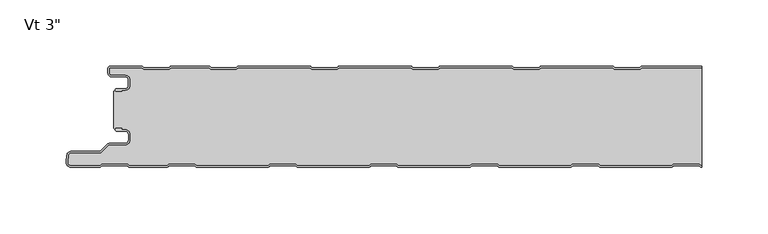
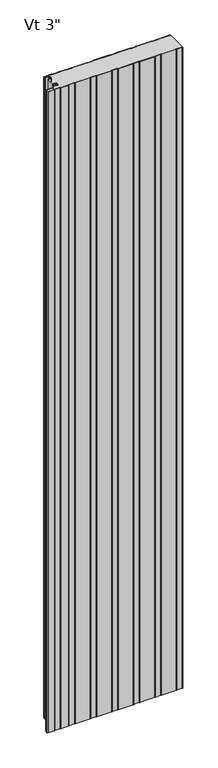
"""IFC4 building model written with IfcOpenShell, lengths in millimetres: plate geometry."""

from ifc_helpers import new_model, si_unit, point, frame, frame_2d, origin, origin_with_axes, place, context, project, spatial, polyline, circle_curve, trimmed, segment, composite_curve, outline, extrude, source, transform, mapped, element, save
from ifc_brep_helpers import plane_surface, cylinder_surface, revolved_surface, advanced_brep


def plate_00e9bba4(model_context):
    return source(origin(), model_context, "Body", "SolidModel", [
        advanced_brep(
        [(-219.9686911, -17.0015243, 2400.0), (-220.9686883, -18.0015275, 2400.0), (-219.9686911, -19.0015188, 2400.0), (-215.9684874, -19.0015188, 2400.0), (-215.9684874, -18.0015243, 2400.0), (-213.2762776, -18.0015243, 2400.0), (-209.9762819, -14.7015286, 2400.0), (-209.9762819, -10.3015374, 2400.0), (-213.2762774, -7.0015419, 2400.0), (-223.6962563, -7.0015419, 2400.0), (-225.4662505, -5.2315477, 2400.0), (-225.4662505, -1.0, 2400.0), (-200.9659739, -1.0, 2400.0), (-199.5803313, -2.2002391, 2400.0), (-180.205165, -2.2002391, 2400.0), (-178.819532, -1.0000084, 2400.0), (-150.1661166, -1.0000084, 2400.0), (-148.7804837, -2.2002391, 2400.0), (-129.4053174, -2.2002391, 2400.0), (-128.0196844, -1.0000084, 2400.0), (-73.966269, -1.0000084, 2400.0), (-72.5806361, -2.2002391, 2400.0), (-53.2054698, -2.2002391, 2400.0), (-51.8198368, -1.0000084, 2400.0), (2.2335786, -1.0000084, 2400.0), (3.6192115, -2.2002391, 2400.0), (22.9943778, -2.2002391, 2400.0), (24.3800108, -1.0000084, 2400.0), (78.4334262, -1.0000084, 2400.0), (79.8190591, -2.2002391, 2400.0), (99.1942254, -2.2002391, 2400.0), (100.5798584, -1.0000084, 2400.0), (154.6332738, -1.0000084, 2400.0), (156.0189067, -2.2002391, 2400.0), (175.394073, -2.2002391, 2400.0), (176.779706, -1.0000084, 2400.0), (221.9999998, -1.0000084, 2400.0), (221.9999998, -8.4e-06, 2400.0), (176.9288571, -8.4e-06, 2400.0), (176.0122402, -0.3417969, 2400.0), (175.0211926, -1.2002391, 2400.0), (156.3917872, -1.2002391, 2400.0), (155.4007395, -0.3417969, 2400.0), (154.4841226, -8.4e-06, 2400.0), (100.7290095, -8.4e-06, 2400.0), (99.8123926, -0.3417969, 2400.0), (98.821345, -1.2002391, 2400.0), (80.1919396, -1.2002391, 2400.0), (79.2008919, -0.3417969, 2400.0), (78.284275, -8.4e-06, 2400.0), (24.5291619, -8.4e-06, 2400.0), (23.612545, -0.3417969, 2400.0), (22.6214974, -1.2002391, 2400.0), (3.992092, -1.2002391, 2400.0), (3.0010443, -0.3417969, 2400.0), (2.0844274, -8.4e-06, 2400.0), (-51.6706857, -8.4e-06, 2400.0), (-52.5873026, -0.3417969, 2400.0), (-53.5783502, -1.2002391, 2400.0), (-72.2077556, -1.2002391, 2400.0), (-73.1988033, -0.3417969, 2400.0), (-74.1154202, -8.4e-06, 2400.0), (-127.8705333, -8.4e-06, 2400.0), (-128.7871502, -0.3417969, 2400.0), (-129.7781978, -1.2002391, 2400.0), (-148.4076032, -1.2002391, 2400.0), (-149.3986509, -0.3417969, 2400.0), (-150.3152678, -8.4e-06, 2400.0), (-178.6703809, -8.4e-06, 2400.0), (-179.5869978, -0.3417969, 2400.0), (-180.5780454, -1.2002391, 2400.0), (-199.2074508, -1.2002391, 2400.0), (-200.1984985, -0.3417969, 2400.0), (-201.1152068, -8.4e-06, 2400.0), (-225.0662544, 0.0, 2400.0), (-226.4662505, -1.3999962, 2400.0), (-226.4662505, -5.2315477, 2400.0), (-223.6962563, -8.0015419, 2400.0), (-213.2762774, -8.0015419, 2400.0), (-210.9762819, -10.3015374, 2400.0), (-210.9762819, -14.7015286, 2400.0), (-213.2762776, -17.0015243, 2400.0), (-219.9686911, -17.0015243, 0.0), (-213.2762776, -17.0015243, 0.0), (-210.9762819, -14.7015286, 0.0), (-210.9762819, -10.3015374, 0.0), (-213.2762774, -8.0015419, 0.0), (-223.6962563, -8.0015419, 0.0), (-226.4662505, -5.2315477, 0.0), (-226.4662505, -1.3999962, 0.0), (-225.0662544, 0.0, 0.0), (-201.1151154, 0.0, 0.0), (-200.1984985, -0.3417969, 0.0), (-199.2074508, -1.2002391, 0.0), (-180.5780454, -1.2002391, 0.0), (-179.5869978, -0.3417969, 0.0), (-178.6703809, -8.4e-06, 0.0), (-150.3152678, -8.4e-06, 0.0), (-149.3986509, -0.3417969, 0.0), (-148.4076032, -1.2002391, 0.0), (-129.7781978, -1.2002391, 0.0), (-128.7871502, -0.3417969, 0.0), (-127.8705333, -8.4e-06, 0.0), (-74.1154202, -8.4e-06, 0.0), (-73.1988033, -0.3417969, 0.0), (-72.2077556, -1.2002391, 0.0), (-53.5783502, -1.2002391, 0.0), (-52.5873026, -0.3417969, 0.0), (-51.6706857, -8.4e-06, 0.0), (2.0844274, -8.4e-06, 0.0), (3.0010443, -0.3417969, 0.0), (3.992092, -1.2002391, 0.0), (22.6214974, -1.2002391, 0.0), (23.612545, -0.3417969, 0.0), (24.5291619, -8.4e-06, 0.0), (78.284275, -8.4e-06, 0.0), (79.2008919, -0.3417969, 0.0), (80.1919396, -1.2002391, 0.0), (98.821345, -1.2002391, 0.0), (99.8123926, -0.3417969, 0.0), (100.7290095, -8.4e-06, 0.0), (154.4841226, -8.4e-06, 0.0), (155.4007395, -0.3417969, 0.0), (156.3917872, -1.2002391, 0.0), (175.0211926, -1.2002391, 0.0), (176.0122402, -0.3417969, 0.0), (176.9288571, -8.4e-06, 0.0), (221.9999998, -8.4e-06, 0.0), (221.9999998, -1.0000084, 0.0), (176.779706, -1.0000084, 0.0), (175.394073, -2.2002391, 0.0), (156.0189067, -2.2002391, 0.0), (154.6332738, -1.0000084, 0.0), (100.5798584, -1.0000084, 0.0), (99.1942254, -2.2002391, 0.0), (79.8190591, -2.2002391, 0.0), (78.4334262, -1.0000084, 0.0), (24.3800108, -1.0000084, 0.0), (22.9943778, -2.2002391, 0.0), (3.6192115, -2.2002391, 0.0), (2.2335786, -1.0000084, 0.0), (-51.8198368, -1.0000084, 0.0), (-53.2054698, -2.2002391, 0.0), (-72.5806361, -2.2002391, 0.0), (-73.966269, -1.0000084, 0.0), (-128.0196844, -1.0000084, 0.0), (-129.4053174, -2.2002391, 0.0), (-148.7804837, -2.2002391, 0.0), (-150.1661166, -1.0000084, 0.0), (-178.819532, -1.0000084, 0.0), (-180.205165, -2.2002391, 0.0), (-199.5803313, -2.2002391, 0.0), (-200.9659739, -1.0, 0.0), (-225.4662505, -1.0, 0.0), (-225.4662505, -5.2315477, 0.0), (-223.6962563, -7.0015419, 0.0), (-213.2762774, -7.0015419, 0.0), (-209.9762819, -10.3015374, 0.0), (-209.9762819, -14.7015286, 0.0), (-213.2762776, -18.0015243, 0.0), (-215.9684874, -18.0015243, 0.0), (-215.9684874, -19.0015188, 0.0), (-219.9686911, -19.0015188, 0.0), (-220.9686883, -18.0015275, 0.0)],
        [
            (0, 1, circle_curve(frame((-219.9686911, -18.0015215, 2400.0), z_axis=(0.0, 0.0, 1.0), x_axis=(1.0, 0.0, 0.0)), 0.9999973)),
            (1, 2, circle_curve(frame((-219.9686911, -18.0015216, 2400.0), z_axis=(0.0, 0.0, 1.0), x_axis=(1.0, 0.0, 0.0)), 0.9999972)),
            (2, 3),
            (3, 4),
            (4, 5),
            (5, 6, circle_curve(frame((-213.2762776, -14.7015286, 2400.0), z_axis=(0.0, 0.0, 1.0), x_axis=(1.0, 0.0, 0.0)), 3.2999957)),
            (6, 7),
            (7, 8, circle_curve(frame((-213.2762774, -10.3015374, 2400.0), z_axis=(0.0, 0.0, 1.0), x_axis=(1.0, 0.0, 0.0)), 3.2999955)),
            (8, 9),
            (9, 10, circle_curve(frame((-223.6962563, -5.2315477, 2400.0), z_axis=(0.0, 0.0, -1.0), x_axis=(1.0, 0.0, 0.0)), 1.7699942)),
            (10, 11),
            (11, 12),
            (12, 13),
            (13, 14),
            (14, 15),
            (15, 16),
            (16, 17),
            (17, 18),
            (18, 19),
            (19, 20),
            (20, 21),
            (21, 22),
            (22, 23),
            (23, 24),
            (24, 25),
            (25, 26),
            (26, 27),
            (27, 28),
            (28, 29),
            (29, 30),
            (30, 31),
            (31, 32),
            (32, 33),
            (33, 34),
            (34, 35),
            (35, 36),
            (36, 37),
            (37, 38),
            (38, 39, circle_curve(frame((176.9288571, -1.4000056, 2400.0), z_axis=(0.0, 0.0, 1.0), x_axis=(1.0, 0.0, 0.0)), 1.3999972)),
            (39, 40),
            (40, 41),
            (41, 42),
            (42, 43, circle_curve(frame((154.4841226, -1.4000056, 2400.0), z_axis=(0.0, 0.0, 1.0), x_axis=(1.0, 0.0, 0.0)), 1.3999972)),
            (43, 44),
            (44, 45, circle_curve(frame((100.7290095, -1.4000056, 2400.0), z_axis=(0.0, 0.0, 1.0), x_axis=(1.0, 0.0, 0.0)), 1.3999972)),
            (45, 46),
            (46, 47),
            (47, 48),
            (48, 49, circle_curve(frame((78.284275, -1.4000056, 2400.0), z_axis=(0.0, 0.0, 1.0), x_axis=(1.0, 0.0, 0.0)), 1.3999972)),
            (49, 50),
            (50, 51, circle_curve(frame((24.5291619, -1.4000056, 2400.0), z_axis=(0.0, 0.0, 1.0), x_axis=(1.0, 0.0, 0.0)), 1.3999972)),
            (51, 52),
            (52, 53),
            (53, 54),
            (54, 55, circle_curve(frame((2.0844274, -1.4000056, 2400.0), z_axis=(0.0, 0.0, 1.0), x_axis=(1.0, 0.0, 0.0)), 1.3999972)),
            (55, 56),
            (56, 57, circle_curve(frame((-51.6706857, -1.4000056, 2400.0), z_axis=(0.0, 0.0, 1.0), x_axis=(1.0, 0.0, 0.0)), 1.3999972)),
            (57, 58),
            (58, 59),
            (59, 60),
            (60, 61, circle_curve(frame((-74.1154202, -1.4000056, 2400.0), z_axis=(0.0, 0.0, 1.0), x_axis=(1.0, 0.0, 0.0)), 1.3999972)),
            (61, 62),
            (62, 63, circle_curve(frame((-127.8705333, -1.4000056, 2400.0), z_axis=(0.0, 0.0, 1.0), x_axis=(1.0, 0.0, 0.0)), 1.3999972)),
            (63, 64),
            (64, 65),
            (65, 66),
            (66, 67, circle_curve(frame((-150.3152678, -1.4000056, 2400.0), z_axis=(0.0, 0.0, 1.0), x_axis=(1.0, 0.0, 0.0)), 1.3999972)),
            (67, 68),
            (68, 69, circle_curve(frame((-178.6703809, -1.4000056, 2400.0), z_axis=(0.0, 0.0, 1.0), x_axis=(1.0, 0.0, 0.0)), 1.3999972)),
            (69, 70),
            (70, 71),
            (71, 72),
            (72, 73, circle_curve(frame((-201.1151154, -1.4000056, 2400.0), z_axis=(0.0, 0.0, 1.0), x_axis=(1.0, 0.0, 0.0)), 1.3999972)),
            (73, 74),
            (74, 75, circle_curve(frame((-225.0662544, -1.3999962, 2400.0), z_axis=(0.0, 0.0, 1.0), x_axis=(1.0, 0.0, 0.0)), 1.3999962)),
            (75, 76),
            (76, 77, circle_curve(frame((-223.6962563, -5.2315477, 2400.0), z_axis=(0.0, 0.0, 1.0), x_axis=(1.0, 0.0, 0.0)), 2.7699942)),
            (77, 78),
            (78, 79, circle_curve(frame((-213.2762774, -10.3015374, 2400.0), z_axis=(0.0, 0.0, -1.0), x_axis=(1.0, 0.0, 0.0)), 2.2999955)),
            (79, 80),
            (80, 81, circle_curve(frame((-213.2762776, -14.7015286, 2400.0), z_axis=(0.0, 0.0, -1.0), x_axis=(1.0, 0.0, 0.0)), 2.2999957)),
            (81, 0),
            (82, 83),
            (83, 84, circle_curve(frame((-213.2762776, -14.7015286, 0.0), z_axis=(0.0, 0.0, 1.0), x_axis=(1.0, 0.0, 0.0)), 2.2999957)),
            (84, 85),
            (85, 86, circle_curve(frame((-213.2762774, -10.3015374, 0.0), z_axis=(0.0, 0.0, 1.0), x_axis=(1.0, 0.0, 0.0)), 2.2999955)),
            (86, 87),
            (87, 88, circle_curve(frame((-223.6962563, -5.2315477, 0.0), z_axis=(0.0, 0.0, -1.0), x_axis=(1.0, 0.0, 0.0)), 2.7699942)),
            (88, 89),
            (89, 90, circle_curve(frame((-225.0662544, -1.3999962, 0.0), z_axis=(0.0, 0.0, -1.0), x_axis=(1.0, 0.0, 0.0)), 1.3999962)),
            (90, 91),
            (91, 92, circle_curve(frame((-201.1151154, -1.4000056, 0.0), z_axis=(0.0, 0.0, -1.0), x_axis=(1.0, 0.0, 0.0)), 1.3999972)),
            (92, 93),
            (93, 94),
            (94, 95),
            (95, 96, circle_curve(frame((-178.6703809, -1.4000056, 0.0), z_axis=(0.0, 0.0, -1.0), x_axis=(1.0, 0.0, 0.0)), 1.3999972)),
            (96, 97),
            (97, 98, circle_curve(frame((-150.3152678, -1.4000056, 0.0), z_axis=(0.0, 0.0, -1.0), x_axis=(1.0, 0.0, 0.0)), 1.3999972)),
            (98, 99),
            (99, 100),
            (100, 101),
            (101, 102, circle_curve(frame((-127.8705333, -1.4000056, 0.0), z_axis=(0.0, 0.0, -1.0), x_axis=(1.0, 0.0, 0.0)), 1.3999972)),
            (102, 103),
            (103, 104, circle_curve(frame((-74.1154202, -1.4000056, 0.0), z_axis=(0.0, 0.0, -1.0), x_axis=(1.0, 0.0, 0.0)), 1.3999972)),
            (104, 105),
            (105, 106),
            (106, 107),
            (107, 108, circle_curve(frame((-51.6706857, -1.4000056, 0.0), z_axis=(0.0, 0.0, -1.0), x_axis=(1.0, 0.0, 0.0)), 1.3999972)),
            (108, 109),
            (109, 110, circle_curve(frame((2.0844274, -1.4000056, 0.0), z_axis=(0.0, 0.0, -1.0), x_axis=(1.0, 0.0, 0.0)), 1.3999972)),
            (110, 111),
            (111, 112),
            (112, 113),
            (113, 114, circle_curve(frame((24.5291619, -1.4000056, 0.0), z_axis=(0.0, 0.0, -1.0), x_axis=(1.0, 0.0, 0.0)), 1.3999972)),
            (114, 115),
            (115, 116, circle_curve(frame((78.284275, -1.4000056, 0.0), z_axis=(0.0, 0.0, -1.0), x_axis=(1.0, 0.0, 0.0)), 1.3999972)),
            (116, 117),
            (117, 118),
            (118, 119),
            (119, 120, circle_curve(frame((100.7290095, -1.4000056, 0.0), z_axis=(0.0, 0.0, -1.0), x_axis=(1.0, 0.0, 0.0)), 1.3999972)),
            (120, 121),
            (121, 122, circle_curve(frame((154.4841226, -1.4000056, 0.0), z_axis=(0.0, 0.0, -1.0), x_axis=(1.0, 0.0, 0.0)), 1.3999972)),
            (122, 123),
            (123, 124),
            (124, 125),
            (125, 126, circle_curve(frame((176.9288571, -1.4000056, 0.0), z_axis=(0.0, 0.0, -1.0), x_axis=(1.0, 0.0, 0.0)), 1.3999972)),
            (126, 127),
            (127, 128),
            (128, 129),
            (129, 130),
            (130, 131),
            (131, 132),
            (132, 133),
            (133, 134),
            (134, 135),
            (135, 136),
            (136, 137),
            (137, 138),
            (138, 139),
            (139, 140),
            (140, 141),
            (141, 142),
            (142, 143),
            (143, 144),
            (144, 145),
            (145, 146),
            (146, 147),
            (147, 148),
            (148, 149),
            (149, 150),
            (150, 151),
            (151, 152),
            (152, 153),
            (153, 154),
            (154, 155, circle_curve(frame((-223.6962563, -5.2315477, 0.0), z_axis=(0.0, 0.0, 1.0), x_axis=(1.0, 0.0, 0.0)), 1.7699942)),
            (155, 156),
            (156, 157, circle_curve(frame((-213.2762774, -10.3015374, 0.0), z_axis=(0.0, 0.0, -1.0), x_axis=(1.0, 0.0, 0.0)), 3.2999955)),
            (157, 158),
            (158, 159, circle_curve(frame((-213.2762776, -14.7015286, 0.0), z_axis=(0.0, 0.0, -1.0), x_axis=(1.0, 0.0, 0.0)), 3.2999957)),
            (159, 160),
            (160, 161),
            (161, 162),
            (162, 163, circle_curve(frame((-219.9686911, -18.0015216, 0.0), z_axis=(0.0, 0.0, -1.0), x_axis=(1.0, 0.0, 0.0)), 0.9999972)),
            (163, 82, circle_curve(frame((-219.9686911, -18.0015215, 0.0), z_axis=(0.0, 0.0, -1.0), x_axis=(1.0, 0.0, 0.0)), 0.9999973)),
            (36, 128),
            (127, 37),
            (81, 83),
            (82, 0),
            (80, 84),
            (79, 85),
            (78, 86),
            (77, 87),
            (76, 88),
            (75, 89),
            (74, 90),
            (73, 91),
            (72, 92),
            (71, 93),
            (70, 94),
            (69, 95),
            (68, 96),
            (67, 97),
            (66, 98),
            (65, 99),
            (64, 100),
            (63, 101),
            (62, 102),
            (61, 103),
            (60, 104),
            (59, 105),
            (58, 106),
            (57, 107),
            (56, 108),
            (55, 109),
            (54, 110),
            (53, 111),
            (52, 112),
            (51, 113),
            (50, 114),
            (49, 115),
            (48, 116),
            (47, 117),
            (46, 118),
            (45, 119),
            (44, 120),
            (43, 121),
            (42, 122),
            (41, 123),
            (40, 124),
            (39, 125),
            (38, 126),
            (35, 129),
            (34, 130),
            (33, 131),
            (32, 132),
            (31, 133),
            (30, 134),
            (29, 135),
            (28, 136),
            (27, 137),
            (26, 138),
            (25, 139),
            (24, 140),
            (23, 141),
            (22, 142),
            (21, 143),
            (20, 144),
            (19, 145),
            (18, 146),
            (17, 147),
            (16, 148),
            (15, 149),
            (14, 150),
            (13, 151),
            (12, 152),
            (11, 153),
            (10, 154),
            (9, 155),
            (8, 156),
            (7, 157),
            (6, 158),
            (5, 159),
            (4, 160),
            (3, 161),
            (2, 162),
            (1, 163),
        ],
        [
            plane_surface(frame((286.0000002, -8.4e-06, 2400.0), z_axis=(0.0, 0.0, 1.0), x_axis=(0.0, 1.0, 0.0))),
            plane_surface(frame((286.0000002, -8.4e-06, 0.0), z_axis=(0.0, 0.0, -1.0), x_axis=(0.0, 1.0, 0.0))),
            plane_surface(frame((221.9999998, -86.2000084, 2400.0), z_axis=(1.0, 0.0, 0.0), x_axis=(0.0, 0.0, -1.0))),
            plane_surface(frame((-219.9686911, -17.0015243, 2400.0), z_axis=(0.0, 1.0, 0.0), x_axis=(0.0, 0.0, -1.0))),
            revolved_surface(polyline([(-210.97628189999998, -14.7015286, 0.0), (-210.97628189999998, -14.7015286, 2400.0)]), (-213.2762776, -14.7015286, 2400.0), (0.0, 0.0, -1.0)),
            plane_surface(frame((-210.9762819, -14.7015286, 2400.0), z_axis=(-1.0, 0.0, 0.0), x_axis=(0.0, 0.0, -1.0))),
            revolved_surface(polyline([(-210.9762819, -10.3015374, 0.0), (-210.9762819, -10.3015374, 2400.0)]), (-213.2762774, -10.3015374, 2400.0), (0.0, 0.0, -1.0)),
            plane_surface(frame((-213.2762774, -8.0015419, 2400.0), z_axis=(0.0, -1.0, 0.0), x_axis=(0.0, 0.0, -1.0))),
            cylinder_surface(frame((-223.6962563, -5.2315477, 2400.0), z_axis=(0.0, 0.0, 1.0), x_axis=(1.0, 0.0, 0.0)), 2.7699942),
            plane_surface(frame((-226.4662505, -5.2315477, 2400.0), z_axis=(-1.0, 0.0, 0.0), x_axis=(0.0, 0.0, -1.0))),
            cylinder_surface(frame((-225.0662544, -1.3999962, 2400.0), z_axis=(0.0, 0.0, 1.0), x_axis=(1.0, 0.0, 0.0)), 1.3999962),
            plane_surface(frame((-225.0662544, 0.0, 2400.0), z_axis=(0.0, 1.0, 0.0), x_axis=(0.0, 0.0, -1.0))),
            cylinder_surface(frame((-201.1151154, -1.4000056, 2400.0), z_axis=(0.0, 0.0, 1.0), x_axis=(1.0, 0.0, 0.0)), 1.3999972),
            plane_surface(frame((-200.1984985, -0.3417969, 2400.0), z_axis=(0.6547276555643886, 0.755864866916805, 0.0), x_axis=(0.0, 0.0, -1.0))),
            plane_surface(frame((-189.8927481, -1.2002391, 2400.0), z_axis=(0.0, 1.0, 0.0), x_axis=(0.0, 0.0, -1.0))),
            plane_surface(frame((-180.5780454, -1.2002391, 2400.0), z_axis=(-0.6547276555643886, 0.755864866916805, 0.0), x_axis=(0.0, 0.0, -1.0))),
            cylinder_surface(frame((-178.6703809, -1.4000056, 2400.0), z_axis=(0.0, 0.0, 1.0), x_axis=(1.0, 0.0, 0.0)), 1.3999972),
            plane_surface(frame((-178.6703809, -8.4e-06, 2400.0), z_axis=(0.0, 1.0, 0.0), x_axis=(0.0, 0.0, -1.0))),
            cylinder_surface(frame((-150.3152678, -1.4000056, 2400.0), z_axis=(0.0, 0.0, 1.0), x_axis=(1.0, 0.0, 0.0)), 1.3999972),
            plane_surface(frame((-149.3986509, -0.3417969, 2400.0), z_axis=(0.6547276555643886, 0.755864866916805, 0.0), x_axis=(0.0, 0.0, -1.0))),
            plane_surface(frame((-139.0929005, -1.2002391, 2400.0), z_axis=(0.0, 1.0, 0.0), x_axis=(0.0, 0.0, -1.0))),
            plane_surface(frame((-129.7781978, -1.2002391, 2400.0), z_axis=(-0.6547276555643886, 0.755864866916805, 0.0), x_axis=(0.0, 0.0, -1.0))),
            cylinder_surface(frame((-127.8705333, -1.4000056, 2400.0), z_axis=(0.0, 0.0, 1.0), x_axis=(1.0, 0.0, 0.0)), 1.3999972),
            plane_surface(frame((-127.8705333, -8.4e-06, 2400.0), z_axis=(0.0, 1.0, 0.0), x_axis=(0.0, 0.0, -1.0))),
            cylinder_surface(frame((-74.1154202, -1.4000056, 2400.0), z_axis=(0.0, 0.0, 1.0), x_axis=(1.0, 0.0, 0.0)), 1.3999972),
            plane_surface(frame((-73.1988033, -0.3417969, 2400.0), z_axis=(0.6547276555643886, 0.755864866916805, 0.0), x_axis=(0.0, 0.0, -1.0))),
            plane_surface(frame((-62.8930529, -1.2002391, 2400.0), z_axis=(0.0, 1.0, 0.0), x_axis=(0.0, 0.0, -1.0))),
            plane_surface(frame((-53.5783502, -1.2002391, 2400.0), z_axis=(-0.6547276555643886, 0.755864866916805, 0.0), x_axis=(0.0, 0.0, -1.0))),
            cylinder_surface(frame((-51.6706857, -1.4000056, 2400.0), z_axis=(0.0, 0.0, 1.0), x_axis=(1.0, 0.0, 0.0)), 1.3999972),
            plane_surface(frame((-51.6706857, -8.4e-06, 2400.0), z_axis=(0.0, 1.0, 0.0), x_axis=(0.0, 0.0, -1.0))),
            cylinder_surface(frame((2.0844274, -1.4000056, 2400.0), z_axis=(0.0, 0.0, 1.0), x_axis=(1.0, 0.0, 0.0)), 1.3999972),
            plane_surface(frame((3.0010443, -0.3417969, 2400.0), z_axis=(0.6547276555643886, 0.755864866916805, 0.0), x_axis=(0.0, 0.0, -1.0))),
            plane_surface(frame((13.3067947, -1.2002391, 2400.0), z_axis=(0.0, 1.0, 0.0), x_axis=(0.0, 0.0, -1.0))),
            plane_surface(frame((22.6214974, -1.2002391, 2400.0), z_axis=(-0.6547276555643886, 0.755864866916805, 0.0), x_axis=(0.0, 0.0, -1.0))),
            cylinder_surface(frame((24.5291619, -1.4000056, 2400.0), z_axis=(0.0, 0.0, 1.0), x_axis=(1.0, 0.0, 0.0)), 1.3999972),
            plane_surface(frame((24.5291619, -8.4e-06, 2400.0), z_axis=(0.0, 1.0, 0.0), x_axis=(0.0, 0.0, -1.0))),
            cylinder_surface(frame((78.284275, -1.4000056, 2400.0), z_axis=(0.0, 0.0, 1.0), x_axis=(1.0, 0.0, 0.0)), 1.3999972),
            plane_surface(frame((79.2008919, -0.3417969, 2400.0), z_axis=(0.6547276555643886, 0.755864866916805, 0.0), x_axis=(0.0, 0.0, -1.0))),
            plane_surface(frame((89.5066423, -1.2002391, 2400.0), z_axis=(0.0, 1.0, 0.0), x_axis=(0.0, 0.0, -1.0))),
            plane_surface(frame((98.821345, -1.2002391, 2400.0), z_axis=(-0.6547276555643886, 0.755864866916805, 0.0), x_axis=(0.0, 0.0, -1.0))),
            cylinder_surface(frame((100.7290095, -1.4000056, 2400.0), z_axis=(0.0, 0.0, 1.0), x_axis=(1.0, 0.0, 0.0)), 1.3999972),
            plane_surface(frame((100.7290095, -8.4e-06, 2400.0), z_axis=(0.0, 1.0, 0.0), x_axis=(0.0, 0.0, -1.0))),
            cylinder_surface(frame((154.4841226, -1.4000056, 2400.0), z_axis=(0.0, 0.0, 1.0), x_axis=(1.0, 0.0, 0.0)), 1.3999972),
            plane_surface(frame((155.4007395, -0.3417969, 2400.0), z_axis=(0.6547276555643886, 0.755864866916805, 0.0), x_axis=(0.0, 0.0, -1.0))),
            plane_surface(frame((165.7064899, -1.2002391, 2400.0), z_axis=(0.0, 1.0, 0.0), x_axis=(0.0, 0.0, -1.0))),
            plane_surface(frame((175.0211926, -1.2002391, 2400.0), z_axis=(-0.6547276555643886, 0.755864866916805, 0.0), x_axis=(0.0, 0.0, -1.0))),
            cylinder_surface(frame((176.9288571, -1.4000056, 2400.0), z_axis=(0.0, 0.0, 1.0), x_axis=(1.0, 0.0, 0.0)), 1.3999972),
            plane_surface(frame((176.9288571, -8.4e-06, 2400.0), z_axis=(0.0, 1.0, 0.0), x_axis=(0.0, 0.0, -1.0))),
            plane_surface(frame((230.8331214, -1.0000084, 2400.0), z_axis=(0.0, -1.0, 0.0), x_axis=(0.0, 0.0, -1.0))),
            plane_surface(frame((176.779706, -1.0000084, 2400.0), z_axis=(0.6547276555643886, -0.755864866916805, 0.0), x_axis=(0.0, 0.0, -1.0))),
            plane_surface(frame((175.394073, -2.2002391, 2400.0), z_axis=(0.0, -1.0, 0.0), x_axis=(0.0, 0.0, -1.0))),
            plane_surface(frame((156.0189067, -2.2002391, 2400.0), z_axis=(-0.6547276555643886, -0.755864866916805, 0.0), x_axis=(0.0, 0.0, -1.0))),
            plane_surface(frame((154.6332738, -1.0000084, 2400.0), z_axis=(0.0, -1.0, 0.0), x_axis=(0.0, 0.0, -1.0))),
            plane_surface(frame((100.5798584, -1.0000084, 2400.0), z_axis=(0.6547276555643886, -0.755864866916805, 0.0), x_axis=(0.0, 0.0, -1.0))),
            plane_surface(frame((99.1942254, -2.2002391, 2400.0), z_axis=(0.0, -1.0, 0.0), x_axis=(0.0, 0.0, -1.0))),
            plane_surface(frame((79.8190591, -2.2002391, 2400.0), z_axis=(-0.6547276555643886, -0.755864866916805, 0.0), x_axis=(0.0, 0.0, -1.0))),
            plane_surface(frame((78.4334262, -1.0000084, 2400.0), z_axis=(0.0, -1.0, 0.0), x_axis=(0.0, 0.0, -1.0))),
            plane_surface(frame((24.3800108, -1.0000084, 2400.0), z_axis=(0.6547276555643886, -0.755864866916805, 0.0), x_axis=(0.0, 0.0, -1.0))),
            plane_surface(frame((22.9943778, -2.2002391, 2400.0), z_axis=(0.0, -1.0, 0.0), x_axis=(0.0, 0.0, -1.0))),
            plane_surface(frame((3.6192115, -2.2002391, 2400.0), z_axis=(-0.6547276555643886, -0.755864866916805, 0.0), x_axis=(0.0, 0.0, -1.0))),
            plane_surface(frame((2.2335786, -1.0000084, 2400.0), z_axis=(0.0, -1.0, 0.0), x_axis=(0.0, 0.0, -1.0))),
            plane_surface(frame((-51.8198368, -1.0000084, 2400.0), z_axis=(0.6547276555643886, -0.755864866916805, 0.0), x_axis=(0.0, 0.0, -1.0))),
            plane_surface(frame((-53.2054698, -2.2002391, 2400.0), z_axis=(0.0, -1.0, 0.0), x_axis=(0.0, 0.0, -1.0))),
            plane_surface(frame((-72.5806361, -2.2002391, 2400.0), z_axis=(-0.6547276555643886, -0.755864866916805, 0.0), x_axis=(0.0, 0.0, -1.0))),
            plane_surface(frame((-73.966269, -1.0000084, 2400.0), z_axis=(0.0, -1.0, 0.0), x_axis=(0.0, 0.0, -1.0))),
            plane_surface(frame((-128.0196844, -1.0000084, 2400.0), z_axis=(0.6547276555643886, -0.755864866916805, 0.0), x_axis=(0.0, 0.0, -1.0))),
            plane_surface(frame((-129.4053174, -2.2002391, 2400.0), z_axis=(0.0, -1.0, 0.0), x_axis=(0.0, 0.0, -1.0))),
            plane_surface(frame((-148.7804837, -2.2002391, 2400.0), z_axis=(-0.6547276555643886, -0.755864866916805, 0.0), x_axis=(0.0, 0.0, -1.0))),
            plane_surface(frame((-150.1661166, -1.0000084, 2400.0), z_axis=(0.0, -1.0, 0.0), x_axis=(0.0, 0.0, -1.0))),
            plane_surface(frame((-178.819532, -1.0000084, 2400.0), z_axis=(0.6547276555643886, -0.755864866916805, 0.0), x_axis=(0.0, 0.0, -1.0))),
            plane_surface(frame((-180.205165, -2.2002391, 2400.0), z_axis=(0.0, -1.0, 0.0), x_axis=(0.0, 0.0, -1.0))),
            plane_surface(frame((-199.5803313, -2.2002391, 2400.0), z_axis=(-0.6547276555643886, -0.755864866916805, 0.0), x_axis=(0.0, 0.0, -1.0))),
            plane_surface(frame((-200.9659739, -1.0, 2400.0), z_axis=(0.0, -1.0, 0.0), x_axis=(0.0, 0.0, -1.0))),
            plane_surface(frame((-225.4662505, -1.0, 2400.0), z_axis=(1.0, 0.0, 0.0), x_axis=(0.0, 0.0, -1.0))),
            revolved_surface(polyline([(-221.92626209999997, -5.2315477, 0.0), (-221.92626209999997, -5.2315477, 2400.0)]), (-223.6962563, -5.2315477, 2400.0), (0.0, 0.0, -1.0)),
            plane_surface(frame((-223.6962563, -7.0015419, 2400.0), z_axis=(0.0, 1.0, 0.0), x_axis=(0.0, 0.0, -1.0))),
            cylinder_surface(frame((-213.2762774, -10.3015374, 2400.0), z_axis=(0.0, 0.0, 1.0), x_axis=(1.0, 0.0, 0.0)), 3.2999955),
            plane_surface(frame((-209.9762819, -10.3015374, 2400.0), z_axis=(1.0, 0.0, 0.0), x_axis=(0.0, 0.0, -1.0))),
            cylinder_surface(frame((-213.2762776, -14.7015286, 2400.0), z_axis=(0.0, 0.0, 1.0), x_axis=(1.0, 0.0, 0.0)), 3.2999957),
            plane_surface(frame((-213.2762776, -18.0015243, 2400.0), z_axis=(0.0, -1.0, 0.0), x_axis=(0.0, 0.0, -1.0))),
            plane_surface(frame((-215.9684874, -18.0015243, 2400.0), z_axis=(1.0, 0.0, 0.0), x_axis=(0.0, 0.0, -1.0))),
            plane_surface(frame((-215.9684874, -19.0015188, 2400.0), z_axis=(0.0, -1.0, 0.0), x_axis=(0.0, 0.0, -1.0))),
            cylinder_surface(frame((-219.9686911, -18.0015216, 2400.0), z_axis=(0.0, 0.0, 1.0), x_axis=(1.0, 0.0, 0.0)), 0.9999972),
            cylinder_surface(frame((-219.9686911, -18.0015215, 2400.0), z_axis=(0.0, 0.0, 1.0), x_axis=(1.0, 0.0, 0.0)), 0.9999973),
        ],
        [
            (0, [[1, 2, 3, 4, 5, 6, 7, 8, 9, 10, 11, 12, 13, 14, 15, 16, 17, 18, 19, 20, 21, 22, 23, 24, 25, 26, 27, 28, 29, 30, 31, 32, 33, 34, 35, 36, 37, 38, 39, 40, 41, 42, 43, 44, 45, 46, 47, 48, 49, 50, 51, 52, 53, 54, 55, 56, 57, 58, 59, 60, 61, 62, 63, 64, 65, 66, 67, 68, 69, 70, 71, 72, 73, 74, 75, 76, 77, 78, 79, 80, 81, 82]]),
            (1, [[83, 84, 85, 86, 87, 88, 89, 90, 91, 92, 93, 94, 95, 96, 97, 98, 99, 100, 101, 102, 103, 104, 105, 106, 107, 108, 109, 110, 111, 112, 113, 114, 115, 116, 117, 118, 119, 120, 121, 122, 123, 124, 125, 126, 127, 128, 129, 130, 131, 132, 133, 134, 135, 136, 137, 138, 139, 140, 141, 142, 143, 144, 145, 146, 147, 148, 149, 150, 151, 152, 153, 154, 155, 156, 157, 158, 159, 160, 161, 162, 163, 164]]),
            (2, [[165, -128, 166, -37]]),
            (3, [[167, -83, 168, -82]]),
            (4, [[169, -84, -167, -81]]),
            (5, [[170, -85, -169, -80]]),
            (6, [[171, -86, -170, -79]]),
            (7, [[172, -87, -171, -78]]),
            (8, [[173, -88, -172, -77]]),
            (9, [[174, -89, -173, -76]]),
            (10, [[175, -90, -174, -75]]),
            (11, [[176, -91, -175, -74]]),
            (12, [[177, -92, -176, -73]]),
            (13, [[178, -93, -177, -72]]),
            (14, [[179, -94, -178, -71]]),
            (15, [[180, -95, -179, -70]]),
            (16, [[181, -96, -180, -69]]),
            (17, [[182, -97, -181, -68]]),
            (18, [[183, -98, -182, -67]]),
            (19, [[184, -99, -183, -66]]),
            (20, [[185, -100, -184, -65]]),
            (21, [[186, -101, -185, -64]]),
            (22, [[187, -102, -186, -63]]),
            (23, [[188, -103, -187, -62]]),
            (24, [[189, -104, -188, -61]]),
            (25, [[190, -105, -189, -60]]),
            (26, [[191, -106, -190, -59]]),
            (27, [[192, -107, -191, -58]]),
            (28, [[193, -108, -192, -57]]),
            (29, [[194, -109, -193, -56]]),
            (30, [[195, -110, -194, -55]]),
            (31, [[196, -111, -195, -54]]),
            (32, [[197, -112, -196, -53]]),
            (33, [[198, -113, -197, -52]]),
            (34, [[199, -114, -198, -51]]),
            (35, [[200, -115, -199, -50]]),
            (36, [[201, -116, -200, -49]]),
            (37, [[202, -117, -201, -48]]),
            (38, [[203, -118, -202, -47]]),
            (39, [[204, -119, -203, -46]]),
            (40, [[205, -120, -204, -45]]),
            (41, [[206, -121, -205, -44]]),
            (42, [[207, -122, -206, -43]]),
            (43, [[208, -123, -207, -42]]),
            (44, [[209, -124, -208, -41]]),
            (45, [[210, -125, -209, -40]]),
            (46, [[211, -126, -210, -39]]),
            (47, [[-38, -166, -127, -211]]),
            (48, [[-129, -165, -36, 212]]),
            (49, [[213, -130, -212, -35]]),
            (50, [[214, -131, -213, -34]]),
            (51, [[215, -132, -214, -33]]),
            (52, [[216, -133, -215, -32]]),
            (53, [[217, -134, -216, -31]]),
            (54, [[218, -135, -217, -30]]),
            (55, [[219, -136, -218, -29]]),
            (56, [[220, -137, -219, -28]]),
            (57, [[221, -138, -220, -27]]),
            (58, [[222, -139, -221, -26]]),
            (59, [[223, -140, -222, -25]]),
            (60, [[224, -141, -223, -24]]),
            (61, [[225, -142, -224, -23]]),
            (62, [[226, -143, -225, -22]]),
            (63, [[227, -144, -226, -21]]),
            (64, [[228, -145, -227, -20]]),
            (65, [[229, -146, -228, -19]]),
            (66, [[230, -147, -229, -18]]),
            (67, [[231, -148, -230, -17]]),
            (68, [[232, -149, -231, -16]]),
            (69, [[233, -150, -232, -15]]),
            (70, [[234, -151, -233, -14]]),
            (71, [[235, -152, -234, -13]]),
            (72, [[236, -153, -235, -12]]),
            (73, [[237, -154, -236, -11]]),
            (74, [[238, -155, -237, -10]]),
            (75, [[239, -156, -238, -9]]),
            (76, [[240, -157, -239, -8]]),
            (77, [[241, -158, -240, -7]]),
            (78, [[242, -159, -241, -6]]),
            (79, [[243, -160, -242, -5]]),
            (80, [[244, -161, -243, -4]]),
            (81, [[245, -162, -244, -3]]),
            (82, [[246, -163, -245, -2]]),
            (83, [[-168, -164, -246, -1]]),
        ],
    ),
        extrude(outline(composite_curve([segment(polyline([(-232.6415932, -76.1997462), (-254.4521175, -76.1997462)]), True, "CONTINUOUS"), segment(trimmed(circle_curve(frame_2d((-254.4521175, -72.6295069)), 3.5702393), [point((-254.4521175, -76.1997462))], [point((-258.0087619, -72.3182365))], False, "CARTESIAN"), True, "CONTINUOUS"), segment(polyline([(-258.0087619, -72.3182365), (-257.5690674, -67.2941899)]), True, "CONTINUOUS"), segment(trimmed(circle_curve(frame_2d((-253.9198391, -67.904991)), 3.6999926), [point((-257.5690674, -67.2941899))], [point((-253.9198391, -64.2049984))], False, "CARTESIAN"), True, "CONTINUOUS"), segment(polyline([(-253.9198391, -64.2049984), (-232.7773995, -64.2049984)]), True, "CONTINUOUS"), segment(trimmed(circle_curve(frame_2d((-232.7773995, -62.905001)), 1.2999974), [point((-232.7773995, -64.2049984))], [point((-231.8581626, -63.824238))], True, "CARTESIAN"), True, "CONTINUOUS"), segment(polyline([(-231.8581626, -63.824238), (-227.0297451, -58.9958205)]), True, "CONTINUOUS"), segment(trimmed(circle_curve(frame_2d((-225.1205606, -60.905005)), 2.6999946), [point((-227.0297451, -58.9958205))], [point((-225.1205606, -58.2050104))], False, "CARTESIAN"), True, "CONTINUOUS"), segment(polyline([(-225.1205606, -58.2050104), (-213.3096715, -58.2050104)]), True, "CONTINUOUS"), segment(trimmed(circle_curve(frame_2d((-213.3096715, -55.8550151)), 2.3499953), [point((-213.3096715, -58.2050104))], [point((-210.9596762, -55.8550151))], True, "CARTESIAN"), True, "CONTINUOUS"), segment(polyline([(-210.9596762, -55.8550151), (-210.9596762, -51.4550239)]), True, "CONTINUOUS"), segment(trimmed(circle_curve(frame_2d((-213.3096715, -51.4550239)), 2.3499953), [point((-210.9596762, -51.4550239))], [point((-213.3096715, -49.1050286))], True, "CARTESIAN"), True, "CONTINUOUS"), segment(polyline([(-213.3096715, -49.1050286), (-219.8289777, -49.1050286)]), True, "CONTINUOUS"), segment(trimmed(circle_curve(frame_2d((-219.7686906, -47.9065463)), 1.1999976), [point((-219.8289777, -49.1050286))], [point((-220.9683, -47.8760244))], False, "CARTESIAN"), True, "CONTINUOUS"), segment(trimmed(circle_curve(frame_2d((-219.7686906, -47.9065463)), 1.1999976), [point((-220.9683, -47.8760244))], [point((-219.767176, -46.7065497))], False, "CARTESIAN"), True, "CONTINUOUS"), segment(polyline([(-219.767176, -46.7065497), (-216.0087826, -46.7065497), (-216.0087826, -48.1050286), (-213.3096715, -48.1050286)]), True, "CONTINUOUS"), segment(trimmed(circle_curve(frame_2d((-213.3096715, -51.4550239)), 3.3499953), [point((-213.3096715, -48.1050286))], [point((-209.9596762, -51.4550239))], False, "CARTESIAN"), True, "CONTINUOUS"), segment(polyline([(-209.9596762, -51.4550239), (-209.9596762, -55.8550151)]), True, "CONTINUOUS"), segment(trimmed(circle_curve(frame_2d((-213.3096715, -55.8550151)), 3.3499953), [point((-209.9596762, -55.8550151))], [point((-213.3096715, -59.2050104))], False, "CARTESIAN"), True, "CONTINUOUS"), segment(polyline([(-213.3096715, -59.2050104), (-225.1205606, -59.2050104)]), True, "CONTINUOUS"), segment(trimmed(circle_curve(frame_2d((-225.1205606, -60.905005)), 1.6999946), [point((-225.1205606, -59.2050104))], [point((-226.3226383, -59.7029273))], True, "CARTESIAN"), True, "CONTINUOUS"), segment(polyline([(-226.3226383, -59.7029273), (-231.8247094, -65.2049984), (-253.9198391, -65.2049984)]), True, "CONTINUOUS"), segment(trimmed(circle_curve(frame_2d((-253.9198391, -67.904991)), 2.6999926), [point((-253.9198391, -65.2049984))], [point((-256.5765707, -67.4236004))], True, "CARTESIAN"), True, "CONTINUOUS"), segment(polyline([(-256.5765707, -67.4236004), (-257.0125697, -72.4054212)]), True, "CONTINUOUS"), segment(trimmed(circle_curve(frame_2d((-254.4521175, -72.6295069)), 2.5702393), [point((-257.0125697, -72.4054212))], [point((-254.4521175, -75.1997462))], True, "CARTESIAN"), True, "CONTINUOUS"), segment(polyline([(-254.4521175, -75.1997462), (-232.479096, -75.1997462), (-231.2791275, -73.9997777), (-211.559715, -73.9997777), (-210.3594843, -75.2000084), (-181.6793525, -75.2000084), (-180.4791218, -73.9997777), (-160.7597093, -73.9997777), (-159.5594786, -75.2000084), (-105.4793468, -75.2000084), (-104.2791161, -73.9997777), (-84.5597036, -73.9997777), (-83.3594729, -75.2000084), (-29.2793411, -75.2000084), (-28.0791104, -73.9997777), (-8.3596979, -73.9997777), (-7.1594672, -75.2000084), (46.9206646, -75.2000084), (48.1208953, -73.9997777), (67.8403078, -73.9997777), (69.0405385, -75.2000084), (123.1206703, -75.2000084), (124.320901, -73.9997777), (144.0403135, -73.9997777), (145.2405442, -75.2000084), (199.3206759, -75.2000084), (200.5209066, -73.9997777), (220.2403192, -73.9997777), (221.4405499, -75.2000084), (221.9999998, -75.2000084), (221.9999998, -76.2000084), (221.6098268, -76.2000084)]), True, "CONTINUOUS"), segment(trimmed(circle_curve(frame_2d((221.6021734, -74.8000321)), 1.3999972), [point((221.6098268, -76.2000084))], [point((220.5581226, -75.7327432))], False, "CARTESIAN"), True, "CONTINUOUS"), segment(polyline([(220.5581226, -75.7327432), (219.825157, -74.9997777), (200.9344878, -74.9997777), (200.2015432, -75.7327223)]), True, "CONTINUOUS"), segment(trimmed(circle_curve(frame_2d((199.1574924, -74.8000112)), 1.3999972), [point((200.2015432, -75.7327223))], [point((199.1574924, -76.2000084))], False, "CARTESIAN"), True, "CONTINUOUS"), segment(polyline([(199.1574924, -76.2000084), (145.4099792, -76.2000084)]), True, "CONTINUOUS"), segment(trimmed(circle_curve(frame_2d((145.4023258, -74.8000321)), 1.3999972), [point((145.4099792, -76.2000084))], [point((144.358275, -75.7327432))], False, "CARTESIAN"), True, "CONTINUOUS"), segment(polyline([(144.358275, -75.7327432), (143.6253094, -74.9997777), (124.7346402, -74.9997777), (124.0016956, -75.7327223)]), True, "CONTINUOUS"), segment(trimmed(circle_curve(frame_2d((122.9576448, -74.8000112)), 1.3999972), [point((124.0016956, -75.7327223))], [point((122.9576448, -76.2000084))], False, "CARTESIAN"), True, "CONTINUOUS"), segment(polyline([(122.9576448, -76.2000084), (69.2101316, -76.2000084)]), True, "CONTINUOUS"), segment(trimmed(circle_curve(frame_2d((69.2024782, -74.8000321)), 1.3999972), [point((69.2101316, -76.2000084))], [point((68.1584274, -75.7327432))], False, "CARTESIAN"), True, "CONTINUOUS"), segment(polyline([(68.1584274, -75.7327432), (67.4254618, -74.9997777), (48.5347926, -74.9997777), (47.801848, -75.7327223)]), True, "CONTINUOUS"), segment(trimmed(circle_curve(frame_2d((46.7577972, -74.8000112)), 1.3999972), [point((47.801848, -75.7327223))], [point((46.7577972, -76.2000084))], False, "CARTESIAN"), True, "CONTINUOUS"), segment(polyline([(46.7577972, -76.2000084), (-6.989716, -76.2000084)]), True, "CONTINUOUS"), segment(trimmed(circle_curve(frame_2d((-6.9973694, -74.8000321)), 1.3999972), [point((-6.989716, -76.2000084))], [point((-8.0414202, -75.7327432))], False, "CARTESIAN"), True, "CONTINUOUS"), segment(polyline([(-8.0414202, -75.7327432), (-8.7743858, -74.9997777), (-27.665055, -74.9997777), (-28.3979996, -75.7327223)]), True, "CONTINUOUS"), segment(trimmed(circle_curve(frame_2d((-29.4420504, -74.8000112)), 1.3999972), [point((-28.3979996, -75.7327223))], [point((-29.4420504, -76.2000084))], False, "CARTESIAN"), True, "CONTINUOUS"), segment(polyline([(-29.4420504, -76.2000084), (-83.1895636, -76.2000084)]), True, "CONTINUOUS"), segment(trimmed(circle_curve(frame_2d((-83.197217, -74.8000321)), 1.3999972), [point((-83.1895636, -76.2000084))], [point((-84.2412678, -75.7327432))], False, "CARTESIAN"), True, "CONTINUOUS"), segment(polyline([(-84.2412678, -75.7327432), (-84.9742334, -74.9997777), (-103.8649026, -74.9997777), (-104.5978472, -75.7327223)]), True, "CONTINUOUS"), segment(trimmed(circle_curve(frame_2d((-105.641898, -74.8000112)), 1.3999972), [point((-104.5978472, -75.7327223))], [point((-105.641898, -76.2000084))], False, "CARTESIAN"), True, "CONTINUOUS"), segment(polyline([(-105.641898, -76.2000084), (-159.3894112, -76.2000084)]), True, "CONTINUOUS"), segment(trimmed(circle_curve(frame_2d((-159.3970646, -74.8000321)), 1.3999972), [point((-159.3894112, -76.2000084))], [point((-160.4411154, -75.7327432))], False, "CARTESIAN"), True, "CONTINUOUS"), segment(polyline([(-160.4411154, -75.7327432), (-161.174081, -74.9997777), (-180.0647502, -74.9997777), (-180.7976948, -75.7327223)]), True, "CONTINUOUS"), segment(trimmed(circle_curve(frame_2d((-181.8417456, -74.8000112)), 1.3999972), [point((-180.7976948, -75.7327223))], [point((-181.8417456, -76.2000084))], False, "CARTESIAN"), True, "CONTINUOUS"), segment(polyline([(-181.8417456, -76.2000084), (-210.1892588, -76.2000084)]), True, "CONTINUOUS"), segment(trimmed(circle_curve(frame_2d((-210.1969122, -74.8000321)), 1.3999972), [point((-210.1892588, -76.2000084))], [point((-211.240963, -75.7327432))], False, "CARTESIAN"), True, "CONTINUOUS"), segment(polyline([(-211.240963, -75.7327432), (-211.9739286, -74.9997777), (-230.8649139, -74.9997777), (-231.5976402, -75.7325039)]), True, "CONTINUOUS"), segment(trimmed(circle_curve(frame_2d((-232.6415932, -74.7998801)), 1.3998661), [point((-231.5976402, -75.7325039))], [point((-232.6415932, -76.1997462))], False, "CARTESIAN"), True, "CONTINUOUS")], self_intersect=False)), origin_with_axes(), (0.0, 0.0, 1.0), 2400.0),
        extrude(outline(composite_curve([segment(polyline([(-220.9683, -47.8760244), (-221.9999998, -46.8443246), (-221.9999998, -19.0328392), (-220.9686882, -18.0015275)]), True, "CONTINUOUS"), segment(trimmed(circle_curve(frame_2d((-219.968691, -18.0015216)), 0.9999972), [point((-220.9686882, -18.0015275))], [point((-219.968691, -19.0015188))], True, "CARTESIAN"), True, "CONTINUOUS"), segment(polyline([(-219.968691, -19.0015188), (-215.9684874, -19.0015188), (-215.9684874, -18.0015243), (-213.2762776, -18.0015243)]), True, "CONTINUOUS"), segment(trimmed(circle_curve(frame_2d((-213.2762776, -14.7015286)), 3.2999957), [point((-213.2762776, -18.0015243))], [point((-209.9762819, -14.7015286))], True, "CARTESIAN"), True, "CONTINUOUS"), segment(polyline([(-209.9762819, -14.7015286), (-209.9762819, -10.3015374)]), True, "CONTINUOUS"), segment(trimmed(circle_curve(frame_2d((-213.2762777, -10.3015374)), 3.2999959), [point((-209.9762819, -10.3015374))], [point((-213.2762777, -7.0015415))], True, "CARTESIAN"), True, "CONTINUOUS"), segment(polyline([(-213.2762777, -7.0015415), (-223.6962563, -7.0015415)]), True, "CONTINUOUS"), segment(trimmed(circle_curve(frame_2d((-223.6962563, -5.2315473)), 1.7699942), [point((-223.6962563, -7.0015415))], [point((-225.4662505, -5.2315473))], False, "CARTESIAN"), True, "CONTINUOUS"), segment(polyline([(-225.4662505, -5.2315473), (-225.4662505, -1.0), (-200.9659738, -1.0), (-199.5803312, -2.2002391), (-180.2051649, -2.2002391), (-178.819532, -1.0000084), (-150.1661166, -1.0000084), (-148.7804836, -2.2002391), (-129.4053173, -2.2002391), (-128.0196844, -1.0000084), (-73.966269, -1.0000084), (-72.580636, -2.2002391), (-53.2054697, -2.2002391), (-51.8198368, -1.0000084), (2.2335786, -1.0000084), (3.6192116, -2.2002391), (22.9943779, -2.2002391), (24.3800108, -1.0000084), (78.4334262, -1.0000084), (79.8190592, -2.2002391), (99.1942255, -2.2002391), (100.5798584, -1.0000084), (154.6332738, -1.0000084), (156.0189068, -2.2002391), (175.3940731, -2.2002391), (176.779706, -1.0000084), (221.9999998, -1.0000084), (221.9999998, -75.2000084), (221.4405499, -75.2000084), (220.2403192, -73.9997777), (200.5209066, -73.9997777), (199.3206759, -75.2000084), (145.2405442, -75.2000084), (144.0403135, -73.9997777), (124.320901, -73.9997777), (123.1206703, -75.2000084), (69.0405385, -75.2000084), (67.8403078, -73.9997777), (48.1208953, -73.9997777), (46.9206646, -75.2000084), (-7.1594672, -75.2000084), (-8.3596979, -73.9997777), (-28.0791104, -73.9997777), (-29.2793411, -75.2000084), (-83.3594729, -75.2000084), (-84.5597036, -73.9997777), (-104.2791161, -73.9997777), (-105.4793468, -75.2000084), (-159.5594786, -75.2000084), (-160.7597093, -73.9997777), (-180.4791218, -73.9997777), (-181.6793525, -75.2000084), (-210.3594843, -75.2000084), (-211.559715, -73.9997777), (-231.2791275, -73.9997777), (-232.479096, -75.1997462), (-254.4521175, -75.1997462)]), True, "CONTINUOUS"), segment(trimmed(circle_curve(frame_2d((-254.4521175, -72.6295069)), 2.5702393), [point((-254.4521175, -75.1997462))], [point((-257.0125697, -72.4054212))], False, "CARTESIAN"), True, "CONTINUOUS"), segment(polyline([(-257.0125697, -72.4054212), (-256.5765707, -67.4236004)]), True, "CONTINUOUS"), segment(trimmed(circle_curve(frame_2d((-253.9198391, -67.904991)), 2.6999926), [point((-256.5765707, -67.4236004))], [point((-253.9198391, -65.2049984))], False, "CARTESIAN"), True, "CONTINUOUS"), segment(polyline([(-253.9198391, -65.2049984), (-231.8247094, -65.2049984), (-226.3226383, -59.7029273)]), True, "CONTINUOUS"), segment(trimmed(circle_curve(frame_2d((-225.1205606, -60.905005)), 1.6999946), [point((-226.3226383, -59.7029273))], [point((-225.1205606, -59.2050104))], False, "CARTESIAN"), True, "CONTINUOUS"), segment(polyline([(-225.1205606, -59.2050104), (-213.3096715, -59.2050104)]), True, "CONTINUOUS"), segment(trimmed(circle_curve(frame_2d((-213.3096715, -55.8550151)), 3.3499953), [point((-213.3096715, -59.2050104))], [point((-209.9596762, -55.8550151))], True, "CARTESIAN"), True, "CONTINUOUS"), segment(polyline([(-209.9596762, -55.8550151), (-209.9596762, -51.4550239)]), True, "CONTINUOUS"), segment(trimmed(circle_curve(frame_2d((-213.3096715, -51.4550239)), 3.3499953), [point((-209.9596762, -51.4550239))], [point((-213.3096715, -48.1050286))], True, "CARTESIAN"), True, "CONTINUOUS"), segment(polyline([(-213.3096715, -48.1050286), (-216.0087826, -48.1050286), (-216.0087826, -46.7065497), (-219.767176, -46.7065497)]), True, "CONTINUOUS"), segment(trimmed(circle_curve(frame_2d((-219.7686906, -47.9065463)), 1.1999976), [point((-219.767176, -46.7065497))], [point((-220.9683, -47.8760244))], True, "CARTESIAN"), True, "CONTINUOUS")], self_intersect=False)), origin_with_axes(), (0.0, 0.0, 1.0), 2400.0),
    ])


if __name__ == "__main__":
    model = new_model("IFC4")
    model_context = context("Model", 3, world=origin())
    ifc_project = project(units=[si_unit("LENGTHUNIT", "METRE", prefix="MILLI")], contexts=[model_context])
    site = spatial("IfcSite", under=ifc_project)
    building = spatial("IfcBuilding", under=site)
    placement = place(None, origin())
    plate_shape = plate_00e9bba4(model_context)
    element("IfcPlate", 1, ObjectType="KIP-40-Karrier-KP-R19-CP-Vt-SL3-8in_SL : Vt 3\"", at=placement, inside=building, context=model_context, shape_type="MappedRepresentation", body=[
        mapped(plate_shape, transform((0.0, 0.0, 0.0), x_axis=(1.0, 0.0, 0.0), y_axis=(0.0, 1.0, 0.0), z_axis=(0.0, 0.0, 1.0))),
    ])
    save(model, "model.ifc")
